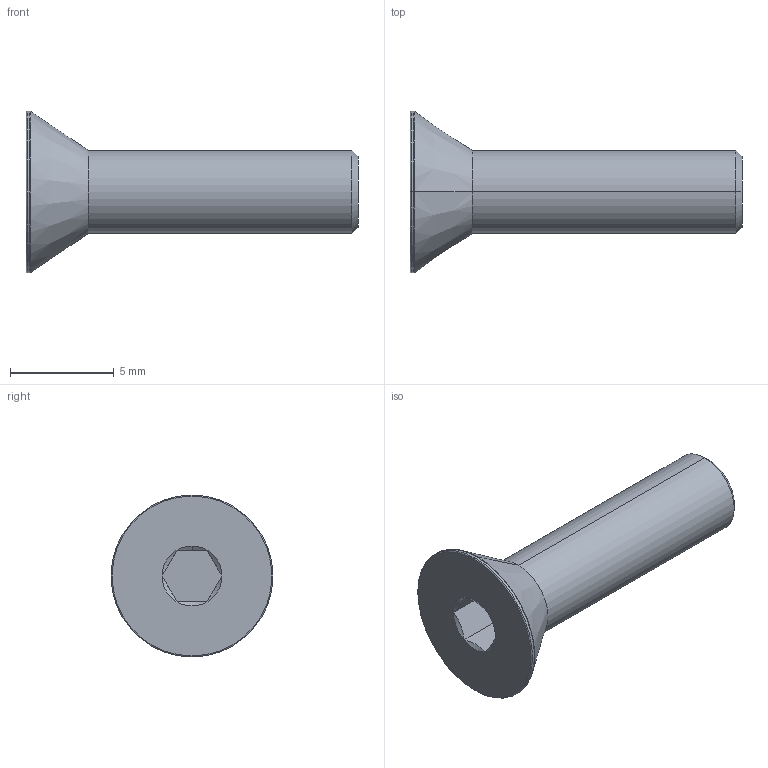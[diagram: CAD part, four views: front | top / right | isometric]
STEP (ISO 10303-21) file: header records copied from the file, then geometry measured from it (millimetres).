
FILE_DESCRIPTION (( 'STEP AP203' ), '1' );
FILE_NAME ('LGDB-304-M4x16.STEP', '2026-08-12T01:28:30', ( '' ), ( '' ), 'SwSTEP 2.0', 'SolidWorks 2020', '' );
FILE_SCHEMA (( 'CONFIG_CONTROL_DESIGN' ));
Length unit declared in the file: millimetre
Products named in the file (1): LGDB-304-M4x16
Bounding box: 16 x 7.8 x 7.8 mm (x, y, z)
Volume: 240.7 mm3; surface area: 305.3 mm2
Topology: 1 solids, 1 shells, 28 faces, 53 edges, 28 vertices
Faces by surface type: cone 11, plane 9, torus 4, cylinder 4
Entity records: 792 total; most frequent: CARTESIAN_POINT 153, DIRECTION 129, ORIENTED_EDGE 106, AXIS2_PLACEMENT_3D 54, EDGE_CURVE 53, EDGE_LOOP 29, FACE_OUTER_BOUND 28, ADVANCED_FACE 28
